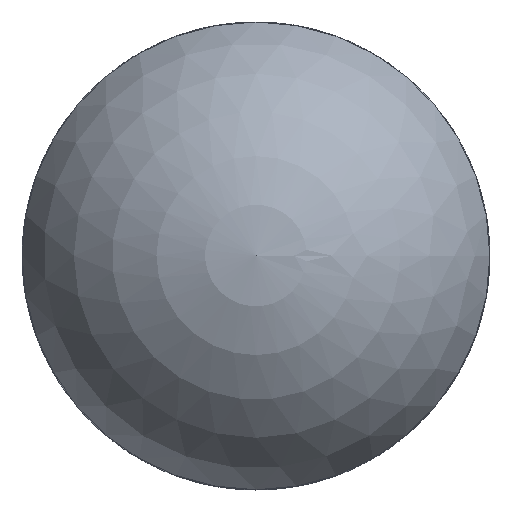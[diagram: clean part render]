
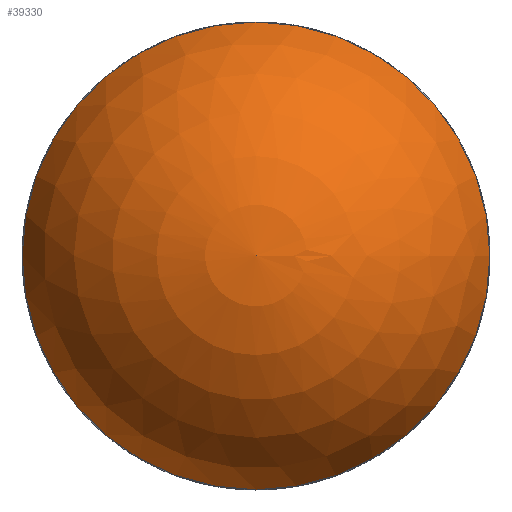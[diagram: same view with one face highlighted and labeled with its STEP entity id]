
A CAD part, top view. The second image highlights one B-rep face of the part: STEP entity #39330.
In plain terms, the highlighted spherical face has radius 15 mm.
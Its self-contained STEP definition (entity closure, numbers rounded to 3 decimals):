
#612 = CYLINDRICAL_SURFACE('',#613,14.211);
#613 = AXIS2_PLACEMENT_3D('',#614,#615,#616);
#614 = CARTESIAN_POINT('',(0.,0.,-1.));
#615 = DIRECTION('',(0.,0.,1.));
#616 = DIRECTION('',(1.,0.,-0.));
#684 = VERTEX_POINT('',#685);
#685 = CARTESIAN_POINT('',(14.211,0.,
    18.066));
#706 = EDGE_CURVE('',#684,#684,#707,.T.);
#707 = SURFACE_CURVE('',#708,(#713,#720),.PCURVE_S1.);
#708 = CIRCLE('',#709,14.211);
#709 = AXIS2_PLACEMENT_3D('',#710,#711,#712);
#710 = CARTESIAN_POINT('',(0.,0.,18.066));
#711 = DIRECTION('',(0.,0.,1.));
#712 = DIRECTION('',(0.,-1.,0.));
#713 = PCURVE('',#612,#714);
#714 = DEFINITIONAL_REPRESENTATION('',(#715),#719);
#715 = LINE('',#716,#717);
#716 = CARTESIAN_POINT('',(-1.571,19.066));
#717 = VECTOR('',#718,1.);
#718 = DIRECTION('',(1.,0.));
#719 = ( GEOMETRIC_REPRESENTATION_CONTEXT(2) 
PARAMETRIC_REPRESENTATION_CONTEXT() REPRESENTATION_CONTEXT('2D SPACE',''
  ) );
#720 = PCURVE('',#721,#726);
#721 = SPHERICAL_SURFACE('',#722,15.);
#722 = AXIS2_PLACEMENT_3D('',#723,#724,#725);
#723 = CARTESIAN_POINT('',(0.,0.,13.266));
#724 = DIRECTION('',(0.,0.,1.));
#725 = DIRECTION('',(1.,0.,-0.));
#726 = DEFINITIONAL_REPRESENTATION('',(#727),#731);
#727 = LINE('',#728,#729);
#728 = CARTESIAN_POINT('',(-1.571,0.326));
#729 = VECTOR('',#730,1.);
#730 = DIRECTION('',(1.,0.));
#731 = ( GEOMETRIC_REPRESENTATION_CONTEXT(2) 
PARAMETRIC_REPRESENTATION_CONTEXT() REPRESENTATION_CONTEXT('2D SPACE',''
  ) );
#39330 = ADVANCED_FACE('',(#39331),#721,.T.);
#39331 = FACE_BOUND('',#39332,.T.);
#39332 = EDGE_LOOP('',(#39333,#39334,#39358));
#39333 = ORIENTED_EDGE('',*,*,#706,.T.);
#39334 = ORIENTED_EDGE('',*,*,#39335,.T.);
#39335 = EDGE_CURVE('',#684,#39336,#39338,.T.);
#39336 = VERTEX_POINT('',#39337);
#39337 = CARTESIAN_POINT('',(0.,0.,
    28.266));
#39338 = SEAM_CURVE('',#39339,(#39344,#39351),.PCURVE_S1.);
#39339 = CIRCLE('',#39340,15.);
#39340 = AXIS2_PLACEMENT_3D('',#39341,#39342,#39343);
#39341 = CARTESIAN_POINT('',(0.,0.,13.266));
#39342 = DIRECTION('',(0.,-1.,0.));
#39343 = DIRECTION('',(1.,0.,0.));
#39344 = PCURVE('',#721,#39345);
#39345 = DEFINITIONAL_REPRESENTATION('',(#39346),#39350);
#39346 = LINE('',#39347,#39348);
#39347 = CARTESIAN_POINT('',(0.,-6.283));
#39348 = VECTOR('',#39349,1.);
#39349 = DIRECTION('',(0.,1.));
#39350 = ( GEOMETRIC_REPRESENTATION_CONTEXT(2) 
PARAMETRIC_REPRESENTATION_CONTEXT() REPRESENTATION_CONTEXT('2D SPACE',''
  ) );
#39351 = PCURVE('',#721,#39352);
#39352 = DEFINITIONAL_REPRESENTATION('',(#39353),#39357);
#39353 = LINE('',#39354,#39355);
#39354 = CARTESIAN_POINT('',(6.283,-6.283));
#39355 = VECTOR('',#39356,1.);
#39356 = DIRECTION('',(0.,1.));
#39357 = ( GEOMETRIC_REPRESENTATION_CONTEXT(2) 
PARAMETRIC_REPRESENTATION_CONTEXT() REPRESENTATION_CONTEXT('2D SPACE',''
  ) );
#39358 = ORIENTED_EDGE('',*,*,#39335,.F.);
